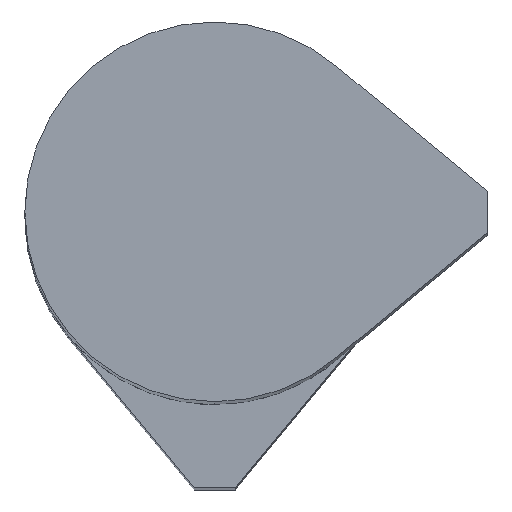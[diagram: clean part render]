
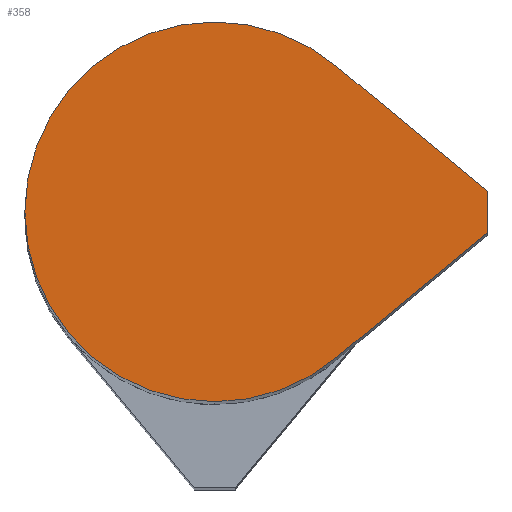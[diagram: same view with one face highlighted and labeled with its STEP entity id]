
A CAD part, top view. The second image highlights one B-rep face of the part: STEP entity #358.
In plain terms, the highlighted planar face has unit normal (0, 0, 1) as drawn and (0, 0, -1) by its records, which use the part's own axes.
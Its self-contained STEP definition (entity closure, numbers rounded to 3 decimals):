
#13 = VERTEX_POINT ( 'NONE', #44 ) ;
#44 = CARTESIAN_POINT ( 'NONE',  ( 11.5, 0., 0. ) ) ;
#70 = CARTESIAN_POINT ( 'NONE',  ( -1.25, -16.5, 0. ) ) ;
#91 = VECTOR ( 'NONE', #1856, 1000. ) ;
#94 = CARTESIAN_POINT ( 'NONE',  ( 8.849, -7.345, 0. ) ) ;
#277 = CARTESIAN_POINT ( 'NONE',  ( -8.849, -7.345, 0. ) ) ;
#315 = CARTESIAN_POINT ( 'NONE',  ( 0., 0., 0. ) ) ;
#322 = CIRCLE ( 'NONE', #1751, 11.5 ) ;
#324 = DIRECTION ( 'NONE',  ( 0., 0., 1. ) ) ;
#327 = AXIS2_PLACEMENT_3D ( 'NONE', #1229, #734, #1411 ) ;
#329 = DIRECTION ( 'NONE',  ( 1., 0., 0. ) ) ;
#338 = CARTESIAN_POINT ( 'NONE',  ( -11.5, 0., 0. ) ) ;
#358 = ADVANCED_FACE ( 'NONE', ( #672 ), #1393, .F. ) ;
#359 = VECTOR ( 'NONE', #1561, 1000. ) ;
#382 = CARTESIAN_POINT ( 'NONE',  ( 0., 0., 0. ) ) ;
#418 = DIRECTION ( 'NONE',  ( 0., 0., 1. ) ) ;
#421 = ORIENTED_EDGE ( 'NONE', *, *, #513, .F. ) ;
#424 = EDGE_CURVE ( 'NONE', #1981, #1562, #1299, .T. ) ;
#448 = VERTEX_POINT ( 'NONE', #601 ) ;
#473 = EDGE_CURVE ( 'NONE', #1562, #2104, #805, .T. ) ;
#513 = EDGE_CURVE ( 'NONE', #13, #1981, #322, .T. ) ;
#601 = CARTESIAN_POINT ( 'NONE',  ( 1.25, -16.5, 0. ) ) ;
#643 = CIRCLE ( 'NONE', #822, 11.5 ) ;
#672 = FACE_OUTER_BOUND ( 'NONE', #1651, .T. ) ;
#694 = DIRECTION ( 'NONE',  ( 1., 0., 0. ) ) ;
#703 = ORIENTED_EDGE ( 'NONE', *, *, #424, .F. ) ;
#734 = DIRECTION ( 'NONE',  ( 0., 0., 1. ) ) ;
#805 = LINE ( 'NONE', #70, #359 ) ;
#822 = AXIS2_PLACEMENT_3D ( 'NONE', #315, #324, #329 ) ;
#933 = ORIENTED_EDGE ( 'NONE', *, *, #1462, .F. ) ;
#968 = LINE ( 'NONE', #1839, #91 ) ;
#1059 = CARTESIAN_POINT ( 'NONE',  ( 0., 0., 0. ) ) ;
#1098 = EDGE_CURVE ( 'NONE', #2104, #448, #1109, .T. ) ;
#1109 = LINE ( 'NONE', #1342, #1594 ) ;
#1147 = CARTESIAN_POINT ( 'NONE',  ( -1.25, -16.5, 0. ) ) ;
#1229 = CARTESIAN_POINT ( 'NONE',  ( 0., 0., 0. ) ) ;
#1238 = DIRECTION ( 'NONE',  ( 1., 0., 0. ) ) ;
#1291 = ORIENTED_EDGE ( 'NONE', *, *, #1098, .F. ) ;
#1293 = VERTEX_POINT ( 'NONE', #94 ) ;
#1299 = CIRCLE ( 'NONE', #1319, 11.5 ) ;
#1319 = AXIS2_PLACEMENT_3D ( 'NONE', #382, #418, #694 ) ;
#1342 = CARTESIAN_POINT ( 'NONE',  ( 1.25, -16.5, 0. ) ) ;
#1393 = PLANE ( 'NONE',  #327 ) ;
#1411 = DIRECTION ( 'NONE',  ( 1., 0., 0. ) ) ;
#1462 = EDGE_CURVE ( 'NONE', #448, #1293, #968, .T. ) ;
#1561 = DIRECTION ( 'NONE',  ( 0.639, -0.769, 0. ) ) ;
#1562 = VERTEX_POINT ( 'NONE', #277 ) ;
#1594 = VECTOR ( 'NONE', #1238, 1000. ) ;
#1651 = EDGE_LOOP ( 'NONE', ( #2121, #933, #1291, #1958, #703, #421 ) ) ;
#1744 = DIRECTION ( 'NONE',  ( 1., 0., 0. ) ) ;
#1751 = AXIS2_PLACEMENT_3D ( 'NONE', #1059, #1753, #1744 ) ;
#1753 = DIRECTION ( 'NONE',  ( 0., 0., 1. ) ) ;
#1839 = CARTESIAN_POINT ( 'NONE',  ( 8.849, -7.345, 0. ) ) ;
#1856 = DIRECTION ( 'NONE',  ( 0.639, 0.769, 0. ) ) ;
#1956 = EDGE_CURVE ( 'NONE', #1293, #13, #643, .T. ) ;
#1958 = ORIENTED_EDGE ( 'NONE', *, *, #473, .F. ) ;
#1981 = VERTEX_POINT ( 'NONE', #338 ) ;
#2104 = VERTEX_POINT ( 'NONE', #1147 ) ;
#2121 = ORIENTED_EDGE ( 'NONE', *, *, #1956, .F. ) ;
